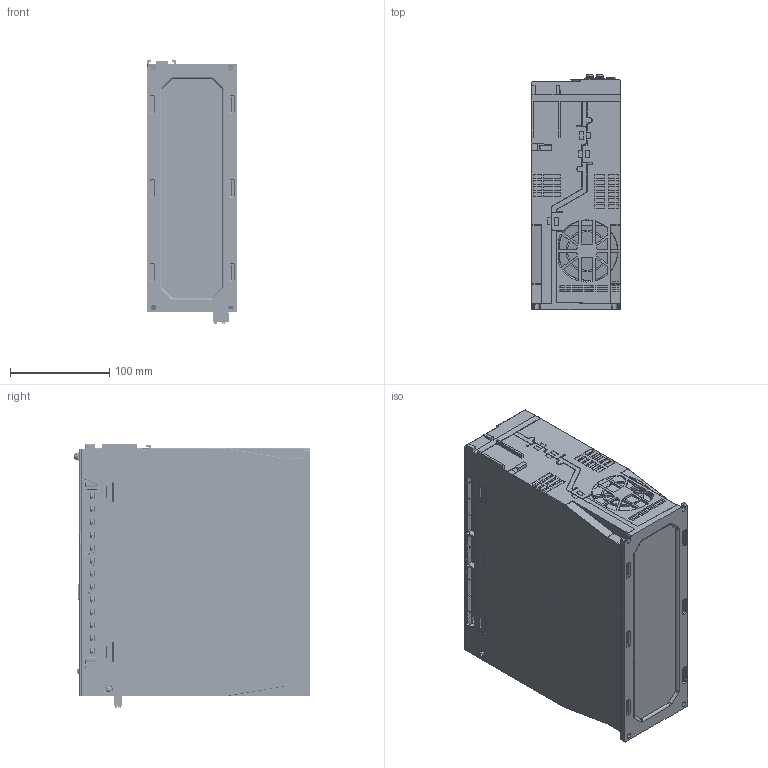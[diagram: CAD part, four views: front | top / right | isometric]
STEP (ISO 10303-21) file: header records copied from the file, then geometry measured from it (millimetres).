
FILE_DESCRIPTION((''),'2;1');
FILE_NAME('1_2_ASM','2025-04-11T17:13:24',('Admin'),(''),'CREO PARAMETRIC BY PTC INC, 2020074','CREO PARAMETRIC BY PTC INC, 2020074','');
FILE_SCHEMA(('CONFIG_CONTROL_DESIGN'));
Products named in the file (12): 1; 1_1_ASM; 1_ASM; PRT0001_1_1; PRT0001_1_2; PRT0001_1_3; PRT0001_1_4; PRT0001_1_5; PRT0001_1_6; PRT0001_1_7; PRT0001_1_ASM; 1_2_ASM
Assembly tree (11 placements, depth 4):
  1_2_ASM
    1_ASM
      1_1_ASM
        1
    PRT0001_1_ASM
      PRT0001_1_1
      PRT0001_1_2
      PRT0001_1_3
      PRT0001_1_4
      PRT0001_1_5
      PRT0001_1_6
      PRT0001_1_7
Bounding box: 90.1 x 237.2 x 265.5 mm (x, y, z)
Volume: 4583260.2 mm3; surface area: 428750.7 mm2
Topology: 8 solids, 54 shells, 9005 faces, 26257 edges, 16930 vertices
Faces by surface type: plane 6471, cylinder 1653, bspline 238, cone 219, sphere 204, torus 204, extrusion 16
Entity records: 307855 total; most frequent: CARTESIAN_POINT 69658, ORIENTED_EDGE 52046, DIRECTION 46147, EDGE_CURVE 26023, VECTOR 20445, LINE 20429, VERTEX_POINT 16930, AXIS2_PLACEMENT_3D 12851
